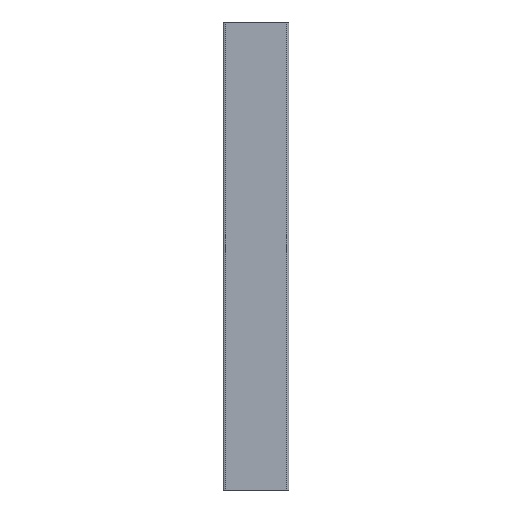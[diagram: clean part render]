
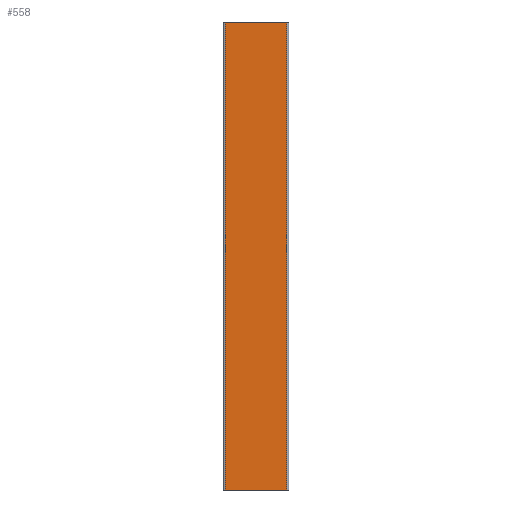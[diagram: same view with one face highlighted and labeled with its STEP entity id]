
A CAD part, front view. The second image highlights one B-rep face of the part: STEP entity #558.
In plain terms, the highlighted planar face has unit normal (0, -1, 0).
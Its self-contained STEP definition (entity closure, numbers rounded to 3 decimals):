
#2 = ORIENTED_EDGE ( 'NONE', *, *, #175, .F. ) ;
#11 = VERTEX_POINT ( 'NONE', #295 ) ;
#21 = DIRECTION ( 'NONE',  ( 1., 0., 0. ) ) ;
#57 = CARTESIAN_POINT ( 'NONE',  ( -14., -7.5, 106.5 ) ) ;
#81 = EDGE_CURVE ( 'NONE', #474, #505, #831, .T. ) ;
#92 = CARTESIAN_POINT ( 'NONE',  ( -14., -7.5, 106.5 ) ) ;
#175 = EDGE_CURVE ( 'NONE', #505, #11, #872, .T. ) ;
#223 = CARTESIAN_POINT ( 'NONE',  ( -14., -7.5, -106.5 ) ) ;
#228 = CARTESIAN_POINT ( 'NONE',  ( -14., -7.5, -106.5 ) ) ;
#233 = AXIS2_PLACEMENT_3D ( 'NONE', #223, #446, #766 ) ;
#264 = CARTESIAN_POINT ( 'NONE',  ( 14., -7.5, -106.5 ) ) ;
#295 = CARTESIAN_POINT ( 'NONE',  ( 14., -7.5, 106.5 ) ) ;
#348 = CARTESIAN_POINT ( 'NONE',  ( -14., -7.5, -106.5 ) ) ;
#351 = VERTEX_POINT ( 'NONE', #264 ) ;
#401 = DIRECTION ( 'NONE',  ( 0., 0., 1. ) ) ;
#411 = EDGE_CURVE ( 'NONE', #474, #351, #427, .T. ) ;
#415 = VECTOR ( 'NONE', #665, 1000. ) ;
#427 = LINE ( 'NONE', #348, #415 ) ;
#446 = DIRECTION ( 'NONE',  ( 0., -1., 0. ) ) ;
#474 = VERTEX_POINT ( 'NONE', #228 ) ;
#476 = CARTESIAN_POINT ( 'NONE',  ( 14., -7.5, -106.5 ) ) ;
#490 = LINE ( 'NONE', #476, #931 ) ;
#505 = VERTEX_POINT ( 'NONE', #57 ) ;
#558 = ADVANCED_FACE ( 'NONE', ( #989 ), #918, .T. ) ;
#600 = DIRECTION ( 'NONE',  ( 0., 0., 1. ) ) ;
#622 = ORIENTED_EDGE ( 'NONE', *, *, #81, .F. ) ;
#650 = ORIENTED_EDGE ( 'NONE', *, *, #689, .T. ) ;
#665 = DIRECTION ( 'NONE',  ( 1., 0., 0. ) ) ;
#689 = EDGE_CURVE ( 'NONE', #351, #11, #490, .T. ) ;
#707 = EDGE_LOOP ( 'NONE', ( #2, #622, #880, #650 ) ) ;
#749 = VECTOR ( 'NONE', #600, 1000. ) ;
#766 = DIRECTION ( 'NONE',  ( 0., 0., -1. ) ) ;
#797 = VECTOR ( 'NONE', #21, 1000. ) ;
#831 = LINE ( 'NONE', #998, #749 ) ;
#872 = LINE ( 'NONE', #92, #797 ) ;
#880 = ORIENTED_EDGE ( 'NONE', *, *, #411, .T. ) ;
#918 = PLANE ( 'NONE',  #233 ) ;
#931 = VECTOR ( 'NONE', #401, 1000. ) ;
#989 = FACE_OUTER_BOUND ( 'NONE', #707, .T. ) ;
#998 = CARTESIAN_POINT ( 'NONE',  ( -14., -7.5, -106.5 ) ) ;
